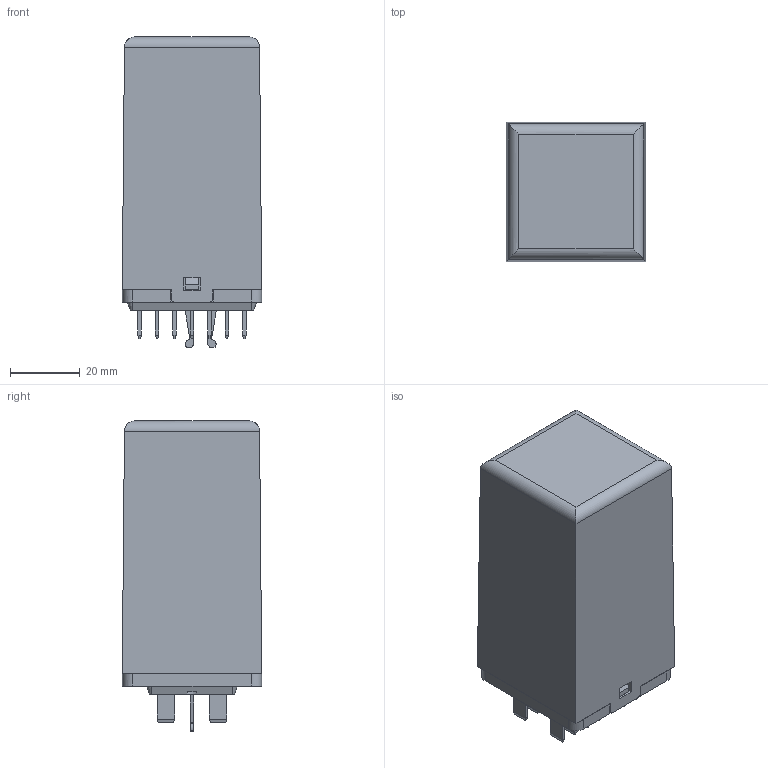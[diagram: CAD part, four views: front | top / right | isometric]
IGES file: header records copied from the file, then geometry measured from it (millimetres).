
Global section: file name: No Iges File Name specified; native system: Autodesk Inventor 2011; preprocessor: AutoDesk Inventor Iges Exporter R2011; author: oey; date: 20110309.092734; units: millimetre
Bounding box: 40 x 40.06 x 88.9 mm (x, y, z)
Volume: 47118 mm3; surface area: 60938.3 mm2
Topology: 3 solids, 11 shells, 3041 faces, 8721 edges, 5593 vertices
Faces by surface type: plane 1474, bspline 702, cylinder 413, revolution 322, torus 54, cone 40, sphere 36
